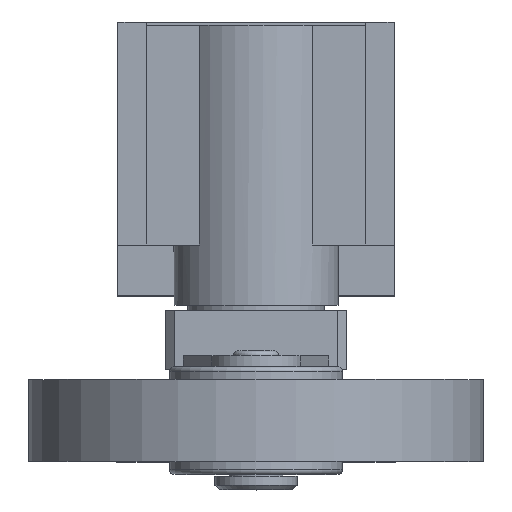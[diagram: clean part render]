
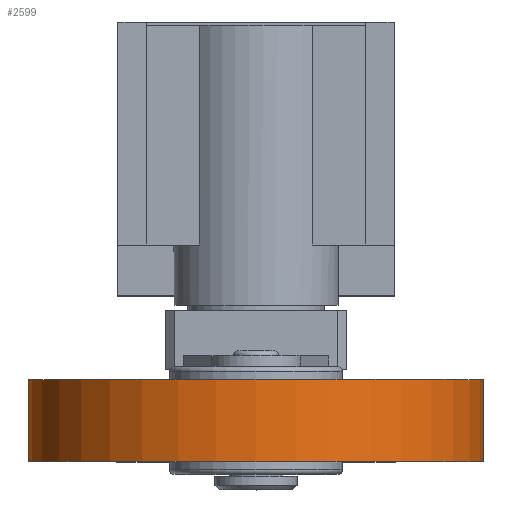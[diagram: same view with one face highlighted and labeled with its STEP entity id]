
A CAD part, top view. The second image highlights one B-rep face of the part: STEP entity #2599.
In plain terms, the highlighted cylindrical face has radius 25 mm (diameter 50 mm), a full revolution.
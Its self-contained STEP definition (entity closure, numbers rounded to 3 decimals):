
#2537=CARTESIAN_POINT('',(0.0,81.5,33.75));
#2538=VERTEX_POINT('',#2537);
#2539=CARTESIAN_POINT('',(0.0,56.5,33.75));
#2540=DIRECTION('',(0.0,0.0,-1.0));
#2541=DIRECTION('',(0.0,1.0,0.0));
#2542=AXIS2_PLACEMENT_3D('',#2539,#2540,#2541);
#2543=CIRCLE('',#2542,25.);
#2544=EDGE_CURVE('',#2538,#2538,#2543,.T.);
#2565=CARTESIAN_POINT('',(0.0,81.5,24.75));
#2566=VERTEX_POINT('',#2565);
#2567=CARTESIAN_POINT('',(0.0,56.5,24.75));
#2568=DIRECTION('',(0.0,0.0,-1.0));
#2569=DIRECTION('',(0.0,1.0,0.0));
#2570=AXIS2_PLACEMENT_3D('',#2567,#2568,#2569);
#2571=CIRCLE('',#2570,25.);
#2572=EDGE_CURVE('',#2566,#2566,#2571,.T.);
#2588=CARTESIAN_POINT('',(0.0,56.5,27.));
#2589=DIRECTION('',(0.0,0.0,-1.0));
#2590=DIRECTION('',(0.0,1.0,0.0));
#2591=AXIS2_PLACEMENT_3D('',#2588,#2589,#2590);
#2592=CYLINDRICAL_SURFACE('',#2591,25.);
#2593=ORIENTED_EDGE('',*,*,#2544,.T.);
#2594=EDGE_LOOP('',(#2593));
#2595=FACE_OUTER_BOUND('',#2594,.T.);
#2596=ORIENTED_EDGE('',*,*,#2572,.F.);
#2597=EDGE_LOOP('',(#2596));
#2598=FACE_BOUND('',#2597,.T.);
#2599=ADVANCED_FACE('',(#2595,#2598),#2592,.T.);
